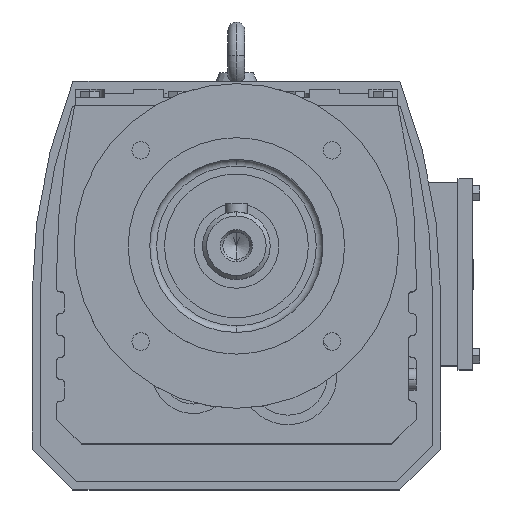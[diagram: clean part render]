
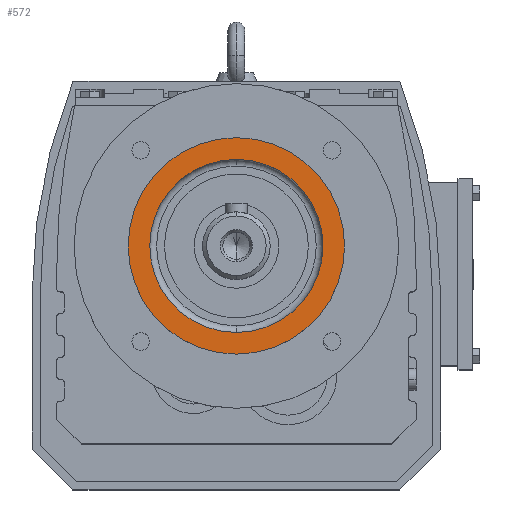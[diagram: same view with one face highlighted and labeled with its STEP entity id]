
A CAD part, top view. The second image highlights one B-rep face of the part: STEP entity #572.
In plain terms, the highlighted planar face has unit normal (0, 0, 1).
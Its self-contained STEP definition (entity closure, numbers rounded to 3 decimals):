
#82 = CYLINDRICAL_SURFACE('',#83,32.);
#83 = AXIS2_PLACEMENT_3D('',#84,#85,#86);
#84 = CARTESIAN_POINT('',(0.,10.1,207.));
#85 = DIRECTION('',(0.,0.,1.));
#86 = DIRECTION('',(0.,-1.,0.));
#317 = VERTEX_POINT('',#318);
#318 = CARTESIAN_POINT('',(0.,42.1,160.));
#331 = CYLINDRICAL_SURFACE('',#332,32.);
#332 = AXIS2_PLACEMENT_3D('',#333,#334,#335);
#333 = CARTESIAN_POINT('',(0.,10.1,207.));
#334 = DIRECTION('',(0.,0.,1.));
#335 = DIRECTION('',(0.,-1.,0.));
#342 = EDGE_CURVE('',#343,#317,#345,.T.);
#343 = VERTEX_POINT('',#344);
#344 = CARTESIAN_POINT('',(0.,-21.9,160.));
#345 = SURFACE_CURVE('',#346,(#351,#357),.PCURVE_S1.);
#346 = CIRCLE('',#347,32.);
#347 = AXIS2_PLACEMENT_3D('',#348,#349,#350);
#348 = CARTESIAN_POINT('',(0.,10.1,160.));
#349 = DIRECTION('',(0.,0.,1.));
#350 = DIRECTION('',(0.,-1.,0.));
#351 = PCURVE('',#82,#352);
#352 = DEFINITIONAL_REPRESENTATION('',(#353),#356);
#353 = B_SPLINE_CURVE_WITH_KNOTS('',1,(#354,#355),.UNSPECIFIED.,.F.,.F.,
  (2,2),(0.,3.142),.PIECEWISE_BEZIER_KNOTS.);
#354 = CARTESIAN_POINT('',(0.,-47.));
#355 = CARTESIAN_POINT('',(3.142,-47.));
#356 = ( GEOMETRIC_REPRESENTATION_CONTEXT(2) 
PARAMETRIC_REPRESENTATION_CONTEXT() REPRESENTATION_CONTEXT('2D SPACE',''
  ) );
#357 = PCURVE('',#358,#363);
#358 = PLANE('',#359);
#359 = AXIS2_PLACEMENT_3D('',#360,#361,#362);
#360 = CARTESIAN_POINT('',(0.,50.1,160.));
#361 = DIRECTION('',(0.,0.,-1.));
#362 = DIRECTION('',(0.,1.,0.));
#363 = DEFINITIONAL_REPRESENTATION('',(#364),#372);
#364 = ( BOUNDED_CURVE() B_SPLINE_CURVE(2,(#365,#366,#367,#368,#369,#370
,#371),.UNSPECIFIED.,.T.,.F.) B_SPLINE_CURVE_WITH_KNOTS((1,2,2,2,2,1),(
    -2.094,0.,2.094,4.189,6.283,
8.378),.UNSPECIFIED.) CURVE() GEOMETRIC_REPRESENTATION_ITEM() 
RATIONAL_B_SPLINE_CURVE((1.,0.5,1.,0.5,1.,0.5,1.)) REPRESENTATION_ITEM(
  '') );
#365 = CARTESIAN_POINT('',(-72.,0.));
#366 = CARTESIAN_POINT('',(-72.,55.426));
#367 = CARTESIAN_POINT('',(-24.,27.713));
#368 = CARTESIAN_POINT('',(24.,0.));
#369 = CARTESIAN_POINT('',(-24.,-27.713));
#370 = CARTESIAN_POINT('',(-72.,-55.426));
#371 = CARTESIAN_POINT('',(-72.,0.));
#372 = ( GEOMETRIC_REPRESENTATION_CONTEXT(2) 
PARAMETRIC_REPRESENTATION_CONTEXT() REPRESENTATION_CONTEXT('2D SPACE',''
  ) );
#547 = EDGE_CURVE('',#317,#343,#548,.T.);
#548 = SURFACE_CURVE('',#549,(#554,#560),.PCURVE_S1.);
#549 = CIRCLE('',#550,32.);
#550 = AXIS2_PLACEMENT_3D('',#551,#552,#553);
#551 = CARTESIAN_POINT('',(0.,10.1,160.));
#552 = DIRECTION('',(0.,0.,1.));
#553 = DIRECTION('',(0.,-1.,0.));
#554 = PCURVE('',#331,#555);
#555 = DEFINITIONAL_REPRESENTATION('',(#556),#559);
#556 = B_SPLINE_CURVE_WITH_KNOTS('',1,(#557,#558),.UNSPECIFIED.,.F.,.F.,
  (2,2),(3.142,6.283),.PIECEWISE_BEZIER_KNOTS.);
#557 = CARTESIAN_POINT('',(3.142,-47.));
#558 = CARTESIAN_POINT('',(6.283,-47.));
#559 = ( GEOMETRIC_REPRESENTATION_CONTEXT(2) 
PARAMETRIC_REPRESENTATION_CONTEXT() REPRESENTATION_CONTEXT('2D SPACE',''
  ) );
#560 = PCURVE('',#358,#561);
#561 = DEFINITIONAL_REPRESENTATION('',(#562),#570);
#562 = ( BOUNDED_CURVE() B_SPLINE_CURVE(2,(#563,#564,#565,#566,#567,#568
,#569),.UNSPECIFIED.,.T.,.F.) B_SPLINE_CURVE_WITH_KNOTS((1,2,2,2,2,1),(
    -2.094,0.,2.094,4.189,6.283,
8.378),.UNSPECIFIED.) CURVE() GEOMETRIC_REPRESENTATION_ITEM() 
RATIONAL_B_SPLINE_CURVE((1.,0.5,1.,0.5,1.,0.5,1.)) REPRESENTATION_ITEM(
  '') );
#563 = CARTESIAN_POINT('',(-72.,0.));
#564 = CARTESIAN_POINT('',(-72.,55.426));
#565 = CARTESIAN_POINT('',(-24.,27.713));
#566 = CARTESIAN_POINT('',(24.,0.));
#567 = CARTESIAN_POINT('',(-24.,-27.713));
#568 = CARTESIAN_POINT('',(-72.,-55.426));
#569 = CARTESIAN_POINT('',(-72.,0.));
#570 = ( GEOMETRIC_REPRESENTATION_CONTEXT(2) 
PARAMETRIC_REPRESENTATION_CONTEXT() REPRESENTATION_CONTEXT('2D SPACE',''
  ) );
#572 = ADVANCED_FACE('',(#573,#577),#358,.F.);
#573 = FACE_BOUND('',#574,.T.);
#574 = EDGE_LOOP('',(#575,#576));
#575 = ORIENTED_EDGE('',*,*,#342,.F.);
#576 = ORIENTED_EDGE('',*,*,#547,.F.);
#577 = FACE_BOUND('',#578,.T.);
#578 = EDGE_LOOP('',(#579,#613));
#579 = ORIENTED_EDGE('',*,*,#580,.T.);
#580 = EDGE_CURVE('',#581,#583,#585,.T.);
#581 = VERTEX_POINT('',#582);
#582 = CARTESIAN_POINT('',(0.,-29.9,160.));
#583 = VERTEX_POINT('',#584);
#584 = CARTESIAN_POINT('',(0.,50.1,160.));
#585 = SURFACE_CURVE('',#586,(#591,#602),.PCURVE_S1.);
#586 = CIRCLE('',#587,40.);
#587 = AXIS2_PLACEMENT_3D('',#588,#589,#590);
#588 = CARTESIAN_POINT('',(0.,10.1,160.));
#589 = DIRECTION('',(0.,0.,1.));
#590 = DIRECTION('',(0.,-1.,0.));
#591 = PCURVE('',#358,#592);
#592 = DEFINITIONAL_REPRESENTATION('',(#593),#601);
#593 = ( BOUNDED_CURVE() B_SPLINE_CURVE(2,(#594,#595,#596,#597,#598,#599
,#600),.UNSPECIFIED.,.T.,.F.) B_SPLINE_CURVE_WITH_KNOTS((1,2,2,2,2,1),(
    -2.094,0.,2.094,4.189,6.283,
8.378),.UNSPECIFIED.) CURVE() GEOMETRIC_REPRESENTATION_ITEM() 
RATIONAL_B_SPLINE_CURVE((1.,0.5,1.,0.5,1.,0.5,1.)) REPRESENTATION_ITEM(
  '') );
#594 = CARTESIAN_POINT('',(-80.,0.));
#595 = CARTESIAN_POINT('',(-80.,69.282));
#596 = CARTESIAN_POINT('',(-20.,34.641));
#597 = CARTESIAN_POINT('',(40.,0.));
#598 = CARTESIAN_POINT('',(-20.,-34.641));
#599 = CARTESIAN_POINT('',(-80.,-69.282));
#600 = CARTESIAN_POINT('',(-80.,0.));
#601 = ( GEOMETRIC_REPRESENTATION_CONTEXT(2) 
PARAMETRIC_REPRESENTATION_CONTEXT() REPRESENTATION_CONTEXT('2D SPACE',''
  ) );
#602 = PCURVE('',#603,#608);
#603 = CYLINDRICAL_SURFACE('',#604,40.);
#604 = AXIS2_PLACEMENT_3D('',#605,#606,#607);
#605 = CARTESIAN_POINT('',(0.,10.1,207.));
#606 = DIRECTION('',(0.,0.,1.));
#607 = DIRECTION('',(0.,-1.,0.));
#608 = DEFINITIONAL_REPRESENTATION('',(#609),#612);
#609 = B_SPLINE_CURVE_WITH_KNOTS('',1,(#610,#611),.UNSPECIFIED.,.F.,.F.,
  (2,2),(0.,3.142),.PIECEWISE_BEZIER_KNOTS.);
#610 = CARTESIAN_POINT('',(0.,-47.));
#611 = CARTESIAN_POINT('',(3.142,-47.));
#612 = ( GEOMETRIC_REPRESENTATION_CONTEXT(2) 
PARAMETRIC_REPRESENTATION_CONTEXT() REPRESENTATION_CONTEXT('2D SPACE',''
  ) );
#613 = ORIENTED_EDGE('',*,*,#614,.T.);
#614 = EDGE_CURVE('',#583,#581,#615,.T.);
#615 = SURFACE_CURVE('',#616,(#621,#632),.PCURVE_S1.);
#616 = CIRCLE('',#617,40.);
#617 = AXIS2_PLACEMENT_3D('',#618,#619,#620);
#618 = CARTESIAN_POINT('',(0.,10.1,160.));
#619 = DIRECTION('',(0.,0.,1.));
#620 = DIRECTION('',(0.,-1.,0.));
#621 = PCURVE('',#358,#622);
#622 = DEFINITIONAL_REPRESENTATION('',(#623),#631);
#623 = ( BOUNDED_CURVE() B_SPLINE_CURVE(2,(#624,#625,#626,#627,#628,#629
,#630),.UNSPECIFIED.,.T.,.F.) B_SPLINE_CURVE_WITH_KNOTS((1,2,2,2,2,1),(
    -2.094,0.,2.094,4.189,6.283,
8.378),.UNSPECIFIED.) CURVE() GEOMETRIC_REPRESENTATION_ITEM() 
RATIONAL_B_SPLINE_CURVE((1.,0.5,1.,0.5,1.,0.5,1.)) REPRESENTATION_ITEM(
  '') );
#624 = CARTESIAN_POINT('',(-80.,0.));
#625 = CARTESIAN_POINT('',(-80.,69.282));
#626 = CARTESIAN_POINT('',(-20.,34.641));
#627 = CARTESIAN_POINT('',(40.,0.));
#628 = CARTESIAN_POINT('',(-20.,-34.641));
#629 = CARTESIAN_POINT('',(-80.,-69.282));
#630 = CARTESIAN_POINT('',(-80.,0.));
#631 = ( GEOMETRIC_REPRESENTATION_CONTEXT(2) 
PARAMETRIC_REPRESENTATION_CONTEXT() REPRESENTATION_CONTEXT('2D SPACE',''
  ) );
#632 = PCURVE('',#633,#638);
#633 = CYLINDRICAL_SURFACE('',#634,40.);
#634 = AXIS2_PLACEMENT_3D('',#635,#636,#637);
#635 = CARTESIAN_POINT('',(0.,10.1,207.));
#636 = DIRECTION('',(0.,0.,1.));
#637 = DIRECTION('',(0.,-1.,0.));
#638 = DEFINITIONAL_REPRESENTATION('',(#639),#642);
#639 = B_SPLINE_CURVE_WITH_KNOTS('',1,(#640,#641),.UNSPECIFIED.,.F.,.F.,
  (2,2),(3.142,6.283),.PIECEWISE_BEZIER_KNOTS.);
#640 = CARTESIAN_POINT('',(3.142,-47.));
#641 = CARTESIAN_POINT('',(6.283,-47.));
#642 = ( GEOMETRIC_REPRESENTATION_CONTEXT(2) 
PARAMETRIC_REPRESENTATION_CONTEXT() REPRESENTATION_CONTEXT('2D SPACE',''
  ) );
